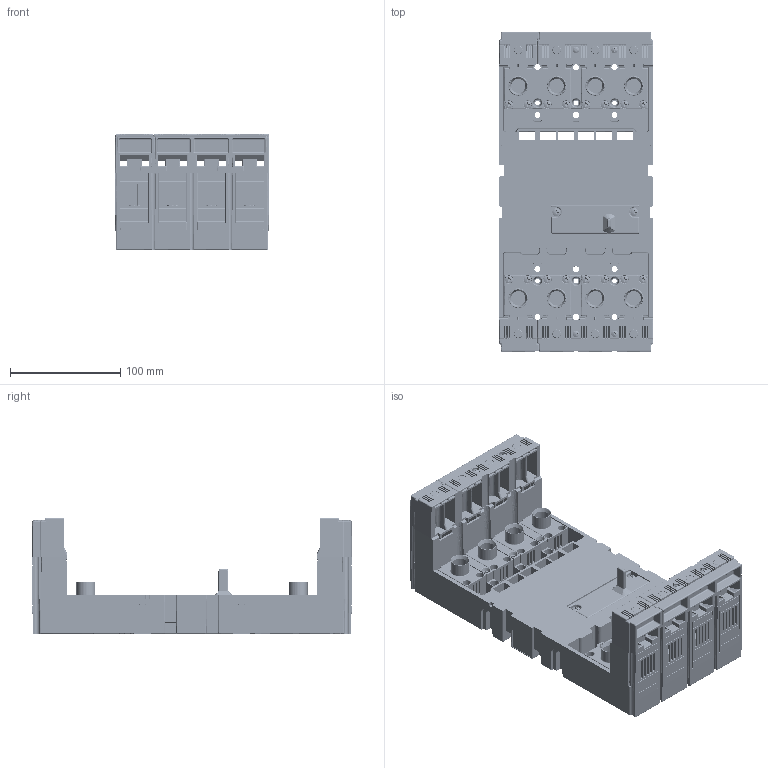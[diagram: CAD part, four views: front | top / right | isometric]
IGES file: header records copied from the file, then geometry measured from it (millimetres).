
Start section: SolidWorks IGES file using analytic representation for surfaces
Global section: file name: U:\14_RD\05_Technical_office\04_Office\Hrdinova\3D modely - IGES\Modeion - BD250\ZO-BD-0250-400.IGS; native system: SolidWorks 2011; preprocessor: SolidWorks 2011; author: adhrja3; date: 170619.085833; units: millimetre
Bounding box: 140 x 290 x 105 mm (x, y, z)
Surface area: 460108.9 mm2 (no closed solid volume)
Topology: 0 solids, 0 shells, 6408 faces, 57761 edges, 57502 vertices
Faces by surface type: bspline 4175, revolution 2233
